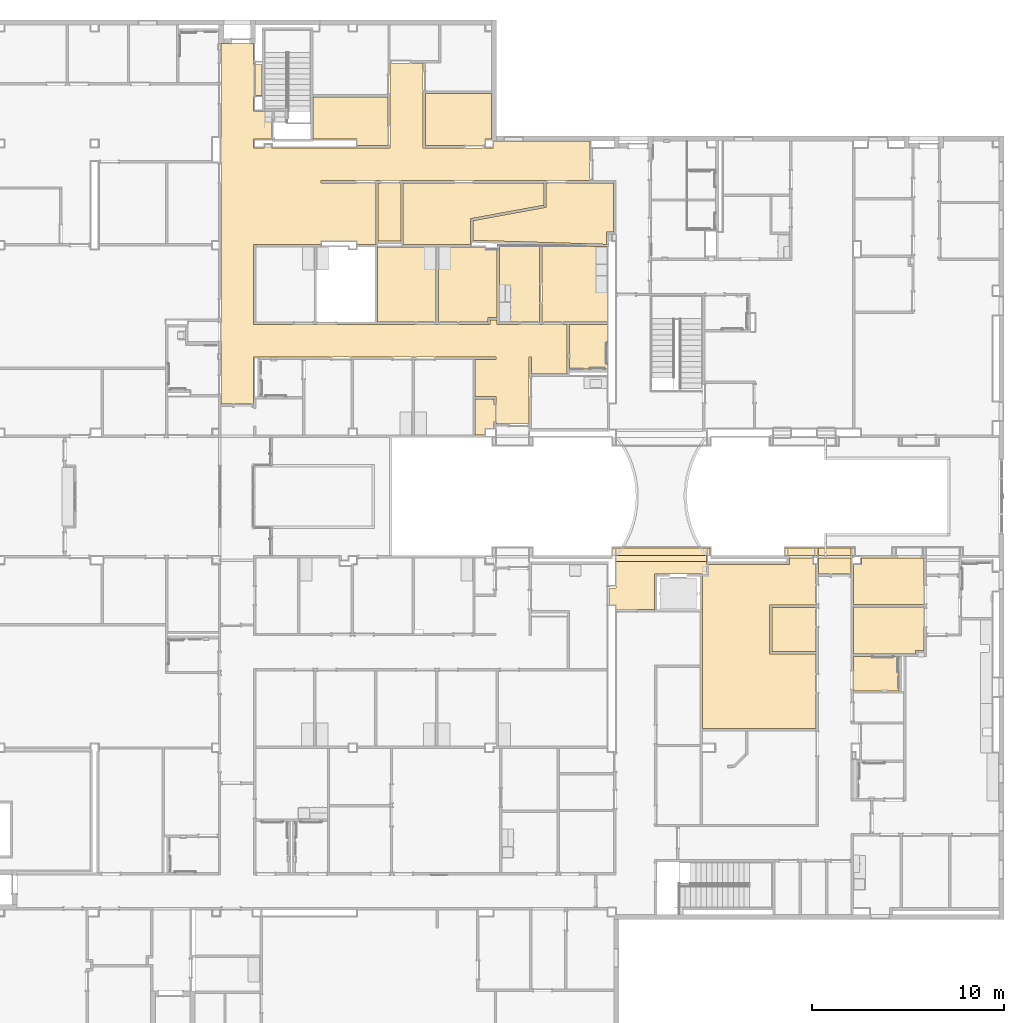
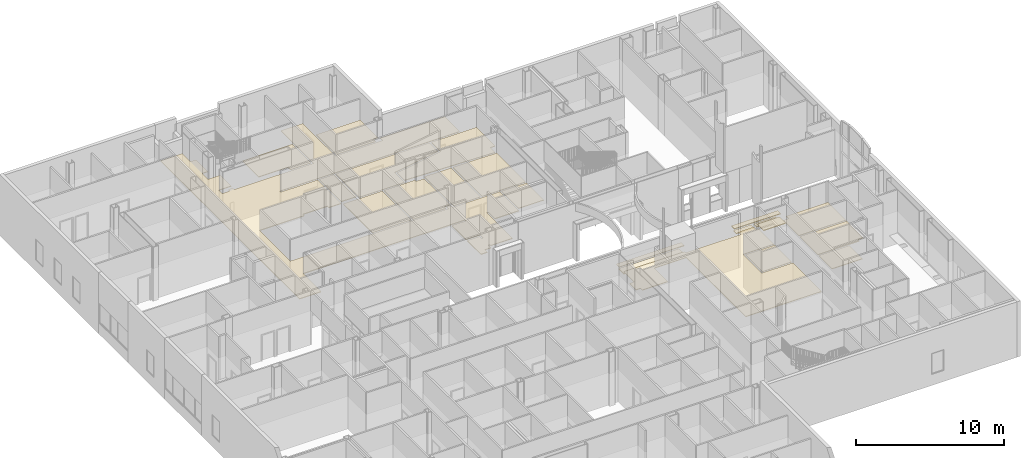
# One storey, part 52 of 82: 22 coverings.
"""IFC2X3 building model written with IfcOpenShell, lengths in metres."""

from ifc_helpers import new_model, entity, si_unit, converted_unit, origin, place, context, project, spatial, face_set, surface_model, material, layer, layer_set, layer_usage, element, save


model = new_model("IFC2X3")

# Units and contexts
model_context = context("Model", 3, precision=1e-09, world=origin())
plan_context = context("Plan", 3, precision=1e-09, world=origin())
ifc_project = project(units=[si_unit("LENGTHUNIT", "METRE"), si_unit("AREAUNIT", "SQUARE_METRE"), si_unit("VOLUMEUNIT", "CUBIC_METRE"), converted_unit("PLANEANGLEUNIT", "DEGREE", entity("IfcRatioMeasure", 0.01745329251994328), si_unit("PLANEANGLEUNIT", "RADIAN"), dimensions=[0, 0, 0, 0, 0, 0, 0]), si_unit("TIMEUNIT", "SECOND")], contexts=[model_context, plan_context])

# Site, building, storey
site_placement = place(None, origin())
site = spatial("IfcSite", under=ifc_project, at=site_placement, Name="Default", CompositionType="ELEMENT")
building_placement = place(site_placement, origin())
building = spatial("IfcBuilding", under=site, at=building_placement, CompositionType="ELEMENT")
storey_placement = place(building_placement, origin())
storey = spatial("IfcBuildingStorey", under=building, at=storey_placement, Name="First Floor", CompositionType="ELEMENT", Elevation=-3.531500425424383e-13)

# Coverings
ifc_material_1 = material(Name="Default")
ifc_layer_1 = layer(ifc_material_1, 0.03599999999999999)
ifc_material_2 = material(Name="Ceiling Tile 600 x 600")
ifc_layer_2 = layer(ifc_material_2, 0.016)
ifc_layer_set_1 = layer_set([ifc_layer_1, ifc_layer_2], Name="Compound Ceiling:ACT 600 x 600mm Grid")
ifc_layer_usage_1 = layer_usage(ifc_layer_set_1, "AXIS3", "NEGATIVE", 0.0)
covering_1_placement = place(storey_placement, origin())
element("IfcCovering", 1, at=covering_1_placement, inside=storey, material=ifc_layer_usage_1, Name="Compound Ceiling:ACT 600 x 600mm Grid", ObjectType="Compound Ceiling:ACT 600 x 600mm Grid", PredefinedType="CEILING", context=model_context, shape_type="SurfaceModel", body=[
    surface_model("IfcFaceBasedSurfaceModel", [(-29.76600000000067, 52.68999999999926, 2.732), (-26.32700000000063, 52.68999999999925, 2.732), (-26.32700000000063, 50.31999999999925, 2.732), (-26.67000000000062, 50.31999999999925, 2.732), (-26.67000000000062, 49.98399999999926, 2.732), (-29.76600000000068, 49.98399999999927, 2.732), (-29.76600000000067, 52.68999999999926, 2.68), (-26.32700000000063, 52.68999999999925, 2.68), (-26.32700000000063, 50.31999999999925, 2.68), (-26.67000000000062, 50.31999999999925, 2.68), (-26.67000000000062, 49.98399999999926, 2.68), (-29.76600000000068, 49.98399999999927, 2.68)], [face_set([[[0, 1, 2, 3, 4, 5]], [[6, 7, 8, 9, 10, 11]], [[5, 11, 6, 0]], [[4, 5, 11, 10]], [[3, 4, 10, 9]], [[2, 3, 9, 8]], [[1, 2, 8, 7]], [[0, 6, 7, 1]]])]),
])
covering_2_placement = place(storey_placement, origin())
element("IfcCovering", 2, at=covering_2_placement, inside=storey, material=ifc_layer_usage_1, Name="Compound Ceiling:ACT 600 x 600mm Grid", ObjectType="Compound Ceiling:ACT 600 x 600mm Grid", PredefinedType="CEILING", context=model_context, shape_type="SurfaceModel", body=[
    surface_model("IfcFaceBasedSurfaceModel", [(-20.17467857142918, 26.92079999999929, 2.732), (-19.8300000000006, 26.92079999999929, 2.732), (-19.8300000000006, 28.30350000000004, 2.732), (-15.10997500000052, 28.30350000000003, 2.732), (-15.10997500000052, 28.14999999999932, 2.732), (-10.79184886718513, 28.14999999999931, 2.732), (-10.79184886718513, 28.48599999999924, 2.732), (-9.576848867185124, 28.48599999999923, 2.732), (-9.576848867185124, 28.14999999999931, 2.732), (-9.413975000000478, 28.14999999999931, 2.732), (-9.413975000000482, 26.03999999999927, 2.732), (-11.82997500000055, 26.03999999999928, 2.732), (-11.82997500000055, 23.50000042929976, 2.732), (-9.413975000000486, 23.50000042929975, 2.732), (-9.413975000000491, 19.60999999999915, 2.732), (-15.3360000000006, 19.60999999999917, 2.732), (-15.33600000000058, 27.64589999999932, 2.732), (-17.82920000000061, 27.64589999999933, 2.732), (-17.82920000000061, 25.80739999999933, 2.732), (-19.83000000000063, 25.80739999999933, 2.732), (-19.83000000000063, 26.04599999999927, 2.732), (-20.17467857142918, 26.04599999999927, 2.732), (-20.17467857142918, 26.92079999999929, 2.68), (-20.17467857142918, 26.04599999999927, 2.68), (-19.83000000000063, 26.04599999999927, 2.68), (-19.83000000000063, 25.80739999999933, 2.68), (-17.82920000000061, 25.80739999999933, 2.68), (-17.82920000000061, 27.64589999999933, 2.68), (-15.33600000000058, 27.64589999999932, 2.68), (-15.3360000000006, 19.60999999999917, 2.68), (-9.413975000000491, 19.60999999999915, 2.68), (-9.413975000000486, 23.50000042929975, 2.68), (-11.82997500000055, 23.50000042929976, 2.68), (-11.82997500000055, 26.03999999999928, 2.68), (-9.413975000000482, 26.03999999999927, 2.68), (-9.413975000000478, 28.14999999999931, 2.68), (-9.576848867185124, 28.14999999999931, 2.68), (-9.576848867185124, 28.48599999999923, 2.68), (-10.79184886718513, 28.48599999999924, 2.68), (-10.79184886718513, 28.14999999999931, 2.68), (-15.10997500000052, 28.14999999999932, 2.68), (-15.10997500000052, 28.30350000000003, 2.68), (-19.8300000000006, 28.30350000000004, 2.68), (-19.8300000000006, 26.92079999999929, 2.68)], [face_set([[[0, 1, 2, 3, 4, 5, 6, 7, 8, 9, 10, 11, 12, 13, 14, 15, 16, 17, 18, 19, 20, 21]], [[22, 23, 24, 25, 26, 27, 28, 29, 30, 31, 32, 33, 34, 35, 36, 37, 38, 39, 40, 41, 42, 43]], [[21, 23, 22, 0]], [[20, 21, 23, 24]], [[19, 25, 24, 20]], [[18, 19, 25, 26]], [[17, 18, 26, 27]], [[16, 17, 27, 28]], [[15, 29, 28, 16]], [[14, 15, 29, 30]], [[13, 14, 30, 31]], [[12, 32, 31, 13]], [[11, 12, 32, 33]], [[10, 11, 33, 34]], [[9, 10, 34, 35]], [[8, 36, 35, 9]], [[7, 8, 36, 37]], [[6, 38, 37, 7]], [[5, 39, 38, 6]], [[4, 40, 39, 5]], [[3, 4, 40, 41]], [[2, 42, 41, 3]], [[1, 43, 42, 2]], [[0, 22, 43, 1]]])]),
])
covering_3_placement = place(storey_placement, origin())
element("IfcCovering", 3, at=covering_3_placement, inside=storey, material=ifc_layer_usage_1, Name="Compound Ceiling:ACT 600 x 600mm Grid", ObjectType="Compound Ceiling:ACT 600 x 600mm Grid", PredefinedType="CEILING", context=model_context, shape_type="SurfaceModel", body=[
    surface_model("IfcFaceBasedSurfaceModel", [(-20.29000000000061, 38.3299999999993, 2.732), (-22.25600000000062, 38.32999999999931, 2.732), (-22.25600000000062, 40.65999999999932, 2.732), (-20.29000000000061, 40.65999999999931, 2.732), (-20.29000000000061, 38.3299999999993, 2.68), (-22.25600000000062, 38.32999999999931, 2.68), (-22.25600000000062, 40.65999999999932, 2.68), (-20.29000000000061, 40.65999999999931, 2.68)], [face_set([[[0, 1, 2, 3]], [[4, 5, 6, 7]], [[3, 0, 4, 7]], [[2, 6, 7, 3]], [[1, 5, 6, 2]], [[0, 1, 5, 4]]])]),
])
covering_4_placement = place(storey_placement, origin())
element("IfcCovering", 4, at=covering_4_placement, inside=storey, material=ifc_layer_usage_1, Name="Compound Ceiling:ACT 600 x 600mm Grid", ObjectType="Compound Ceiling:ACT 600 x 600mm Grid", PredefinedType="CEILING", context=model_context, shape_type="SurfaceModel", body=[
    surface_model("IfcFaceBasedSurfaceModel", [(-19.9540000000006, 48.02599999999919, 2.732), (-19.95400000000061, 45.48399999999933, 2.732), (-20.32900000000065, 45.48399999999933, 2.732), (-20.32900000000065, 44.83118581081, 2.732), (-27.28500000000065, 45.04268581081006, 2.732), (-27.28500000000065, 46.06502903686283, 2.732), (-23.47500000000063, 46.76502903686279, 2.732), (-23.47500000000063, 48.02599999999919, 2.732), (-19.9540000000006, 48.02599999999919, 2.68), (-19.95400000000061, 45.48399999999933, 2.68), (-20.32900000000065, 45.48399999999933, 2.68), (-20.32900000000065, 44.83118581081, 2.68), (-27.28500000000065, 45.04268581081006, 2.68), (-27.28500000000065, 46.06502903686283, 2.68), (-23.47500000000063, 46.76502903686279, 2.68), (-23.47500000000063, 48.02599999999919, 2.68)], [face_set([[[0, 1, 2, 3, 4, 5, 6, 7]], [[8, 9, 10, 11, 12, 13, 14, 15]], [[7, 15, 8, 0]], [[6, 14, 15, 7]], [[5, 13, 14, 6]], [[4, 12, 13, 5]], [[3, 4, 12, 11]], [[2, 3, 11, 10]], [[1, 2, 10, 9]], [[0, 1, 9, 8]]])]),
])
ifc_material_3 = material(Name="Metal - Stud Layer")
ifc_layer_3 = layer(ifc_material_3, 0.045)
ifc_material_4 = material(Name="Plasterboard")
ifc_layer_4 = layer(ifc_material_4, 0.012)
ifc_layer_set_2 = layer_set([ifc_layer_3, ifc_layer_4], Name="Compound Ceiling:Gypsum Board")
ifc_layer_usage_2 = layer_usage(ifc_layer_set_2, "AXIS3", "NEGATIVE", 0.0)
covering_5_placement = place(storey_placement, origin())
element("IfcCovering", 5, at=covering_5_placement, inside=storey, material=ifc_layer_usage_2, Name="Compound Ceiling:Gypsum Board", ObjectType="Compound Ceiling:Gypsum Board", PredefinedType="CEILING", context=model_context, shape_type="SurfaceModel", body=[
    surface_model("IfcFaceBasedSurfaceModel", [(-10.8637227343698, 28.60999999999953, 2.557), (-10.86372273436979, 29.01599999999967, 2.557), (-9.504975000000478, 29.01599999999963, 2.557), (-9.504975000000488, 28.6099999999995, 2.557), (-10.8637227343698, 28.60999999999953, 2.5), (-10.86372273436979, 29.01599999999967, 2.5), (-9.504975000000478, 29.01599999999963, 2.5), (-9.504975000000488, 28.6099999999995, 2.5)], [face_set([[[0, 1, 2, 3]], [[4, 5, 6, 7]], [[0, 4, 5, 1]], [[1, 5, 6, 2]], [[2, 3, 7, 6]], [[3, 0, 4, 7]]])]),
])
covering_6_placement = place(storey_placement, origin())
element("IfcCovering", 6, at=covering_6_placement, inside=storey, material=ifc_layer_usage_1, Name="Compound Ceiling:ACT 600 x 600mm Grid", ObjectType="Compound Ceiling:ACT 600 x 600mm Grid", PredefinedType="CEILING", context=model_context, shape_type="SurfaceModel", body=[
    surface_model("IfcFaceBasedSurfaceModel", [(-33.32000000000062, 50.31999999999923, 2.732), (-35.61600000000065, 50.31999999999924, 2.732), (-35.61600000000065, 52.51999999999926, 2.732), (-31.72400000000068, 52.51999999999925, 2.732), (-31.72400000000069, 49.98399999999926, 2.732), (-33.32000000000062, 49.98399999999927, 2.732), (-33.32000000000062, 50.31999999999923, 2.68), (-35.61600000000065, 50.31999999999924, 2.68), (-35.61600000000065, 52.51999999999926, 2.68), (-31.72400000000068, 52.51999999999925, 2.68), (-31.72400000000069, 49.98399999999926, 2.68), (-33.32000000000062, 49.98399999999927, 2.68)], [face_set([[[0, 1, 2, 3, 4, 5]], [[6, 7, 8, 9, 10, 11]], [[4, 5, 11, 10]], [[3, 4, 10, 9]], [[2, 8, 9, 3]], [[1, 7, 8, 2]], [[0, 1, 7, 6]], [[5, 11, 6, 0]]])]),
])
covering_7_placement = place(storey_placement, origin())
element("IfcCovering", 7, at=covering_7_placement, inside=storey, material=ifc_layer_usage_1, Name="Compound Ceiling:ACT 600 x 600mm Grid", ObjectType="Compound Ceiling:ACT 600 x 600mm Grid", PredefinedType="CEILING", context=model_context, shape_type="SurfaceModel", body=[
    surface_model("IfcFaceBasedSurfaceModel", [(-3.793975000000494, 28.48599999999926, 2.732), (-3.793975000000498, 26.06399999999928, 2.732), (-7.455975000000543, 26.06399999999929, 2.732), (-7.455975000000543, 28.14999999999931, 2.732), (-7.050000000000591, 28.14999999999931, 2.732), (-7.050000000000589, 28.48599999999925, 2.732), (-5.305722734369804, 28.48599999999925, 2.732), (-5.171852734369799, 28.48599999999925, 2.732), (-3.956852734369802, 28.48599999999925, 2.732), (-3.793975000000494, 28.48599999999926, 2.68), (-3.793975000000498, 26.06399999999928, 2.68), (-7.455975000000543, 26.06399999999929, 2.68), (-7.455975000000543, 28.14999999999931, 2.68), (-7.050000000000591, 28.14999999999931, 2.68), (-7.050000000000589, 28.48599999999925, 2.68), (-5.305722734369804, 28.48599999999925, 2.68), (-5.171852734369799, 28.48599999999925, 2.68), (-3.956852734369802, 28.48599999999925, 2.68)], [face_set([[[0, 1, 2, 3, 4, 5, 6, 7, 8]], [[9, 10, 11, 12, 13, 14, 15, 16, 17]], [[8, 17, 9, 0]], [[7, 16, 17, 8]], [[6, 15, 16, 7]], [[5, 14, 15, 6]], [[4, 13, 14, 5]], [[3, 12, 13, 4]], [[2, 11, 12, 3]], [[1, 2, 11, 10]], [[0, 1, 10, 9]]])]),
])
covering_8_placement = place(storey_placement, origin())
element("IfcCovering", 8, at=covering_8_placement, inside=storey, material=ifc_layer_usage_1, Name="Compound Ceiling:ACT 600 x 600mm Grid", ObjectType="Compound Ceiling:ACT 600 x 600mm Grid", PredefinedType="CEILING", context=model_context, shape_type="SurfaceModel", body=[
    surface_model("IfcFaceBasedSurfaceModel", [(-27.40900000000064, 44.82999999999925, 2.732), (-27.40900000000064, 46.16832236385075, 2.732), (-23.59900000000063, 46.86832236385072, 2.732), (-23.59900000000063, 48.02599999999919, 2.732), (-30.92500000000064, 48.02599999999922, 2.732), (-30.92500000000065, 44.82999999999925, 2.732), (-27.40900000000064, 44.82999999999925, 2.68), (-30.92500000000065, 44.82999999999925, 2.68), (-30.92500000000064, 48.02599999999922, 2.68), (-23.59900000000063, 48.02599999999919, 2.68), (-23.59900000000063, 46.86832236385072, 2.68), (-27.40900000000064, 46.16832236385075, 2.68)], [face_set([[[0, 1, 2, 3, 4, 5]], [[6, 7, 8, 9, 10, 11]], [[1, 0, 6, 11]], [[2, 1, 11, 10]], [[3, 2, 10, 9]], [[4, 8, 9, 3]], [[5, 7, 8, 4]], [[0, 5, 7, 6]]])]),
])
covering_9_placement = place(storey_placement, origin())
element("IfcCovering", 9, at=covering_9_placement, inside=storey, material=ifc_layer_usage_1, Name="Compound Ceiling:ACT 600 x 600mm Grid", ObjectType="Compound Ceiling:ACT 600 x 600mm Grid", PredefinedType="CEILING", context=model_context, shape_type="SurfaceModel", body=[
    surface_model("IfcFaceBasedSurfaceModel", [(-9.413975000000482, 25.91599999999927, 2.732), (-9.413975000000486, 23.62400042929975, 2.732), (-11.70597500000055, 23.62400042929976, 2.732), (-11.70597500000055, 25.91599999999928, 2.732), (-9.413975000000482, 25.91599999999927, 2.68), (-9.413975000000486, 23.62400042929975, 2.68), (-11.70597500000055, 23.62400042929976, 2.68), (-11.70597500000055, 25.91599999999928, 2.68)], [face_set([[[0, 1, 2, 3]], [[4, 5, 6, 7]], [[3, 7, 4, 0]], [[2, 6, 7, 3]], [[1, 2, 6, 5]], [[0, 1, 5, 4]]])]),
])
covering_10_placement = place(storey_placement, origin())
element("IfcCovering", 10, at=covering_10_placement, inside=storey, material=ifc_layer_usage_2, Name="Compound Ceiling:Gypsum Board", ObjectType="Compound Ceiling:Gypsum Board", PredefinedType="CEILING", context=model_context, shape_type="SurfaceModel", body=[
    surface_model("IfcFaceBasedSurfaceModel", [(-15.1099750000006, 29.01599999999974, 2.557), (-15.10997500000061, 28.30799999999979, 2.557), (-19.83000000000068, 28.30799999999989, 2.557), (-19.83000000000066, 29.01599999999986, 2.557), (-15.1099750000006, 29.01599999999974, 2.5), (-15.10997500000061, 28.30799999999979, 2.5), (-19.83000000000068, 28.30799999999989, 2.5), (-19.83000000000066, 29.01599999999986, 2.5)], [face_set([[[0, 1, 2, 3]], [[4, 5, 6, 7]], [[0, 1, 5, 4]], [[1, 2, 6, 5]], [[2, 6, 7, 3]], [[3, 7, 4, 0]]])]),
])
covering_11_placement = place(storey_placement, origin())
element("IfcCovering", 11, at=covering_11_placement, inside=storey, material=ifc_layer_usage_1, Name="Compound Ceiling:ACT 600 x 600mm Grid", ObjectType="Compound Ceiling:ACT 600 x 600mm Grid", PredefinedType="CEILING", context=model_context, shape_type="SurfaceModel", body=[
    surface_model("IfcFaceBasedSurfaceModel", [(-32.22500000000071, 45.00999999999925, 2.732), (-32.2250000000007, 48.02599999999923, 2.732), (-31.04900000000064, 48.02599999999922, 2.732), (-31.04900000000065, 45.00999999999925, 2.732), (-32.22500000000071, 45.00999999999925, 2.68), (-32.2250000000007, 48.02599999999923, 2.68), (-31.04900000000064, 48.02599999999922, 2.68), (-31.04900000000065, 45.00999999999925, 2.68)], [face_set([[[0, 1, 2, 3]], [[4, 5, 6, 7]], [[3, 0, 4, 7]], [[2, 3, 7, 6]], [[1, 5, 6, 2]], [[0, 4, 5, 1]]])]),
])
covering_12_placement = place(storey_placement, origin())
element("IfcCovering", 12, at=covering_12_placement, inside=storey, material=ifc_layer_usage_2, Name="Compound Ceiling:Gypsum Board", ObjectType="Compound Ceiling:Gypsum Board", PredefinedType="CEILING", context=model_context, shape_type="SurfaceModel", body=[
    surface_model("IfcFaceBasedSurfaceModel", [(-9.289975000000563, 28.60999999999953, 2.557), (-9.289975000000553, 29.01599999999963, 2.557), (-7.579975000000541, 29.01599999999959, 2.557), (-7.579975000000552, 28.6099999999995, 2.557), (-9.289975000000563, 28.60999999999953, 2.5), (-9.289975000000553, 29.01599999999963, 2.5), (-7.579975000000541, 29.01599999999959, 2.5), (-7.579975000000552, 28.6099999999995, 2.5)], [face_set([[[0, 1, 2, 3]], [[4, 5, 6, 7]], [[0, 4, 5, 1]], [[1, 5, 6, 2]], [[2, 3, 7, 6]], [[3, 0, 4, 7]]])]),
])
covering_13_placement = place(storey_placement, origin())
element("IfcCovering", 13, at=covering_13_placement, inside=storey, material=ifc_layer_usage_2, Name="Compound Ceiling:Gypsum Board", ObjectType="Compound Ceiling:Gypsum Board", PredefinedType="CEILING", context=model_context, shape_type="SurfaceModel", body=[
    surface_model("IfcFaceBasedSurfaceModel", [(-9.289975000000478, 28.48599999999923, 2.857), (-7.579975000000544, 28.48599999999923, 2.857), (-7.579975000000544, 27.64399999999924, 2.857), (-9.289975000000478, 27.64399999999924, 2.857), (-9.289975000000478, 28.48599999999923, 2.8), (-7.579975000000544, 28.48599999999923, 2.8), (-7.579975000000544, 27.64399999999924, 2.8), (-9.289975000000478, 27.64399999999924, 2.8)], [face_set([[[0, 1, 2, 3]], [[4, 5, 6, 7]], [[3, 7, 4, 0]], [[2, 3, 7, 6]], [[1, 2, 6, 5]], [[0, 4, 5, 1]]])]),
])
covering_14_placement = place(storey_placement, origin())
element("IfcCovering", 14, at=covering_14_placement, inside=storey, material=ifc_layer_usage_1, Name="Compound Ceiling:ACT 600 x 600mm Grid", ObjectType="Compound Ceiling:ACT 600 x 600mm Grid", PredefinedType="CEILING", context=model_context, shape_type="SurfaceModel", body=[
    surface_model("IfcFaceBasedSurfaceModel", [(-26.21000000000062, 50.20299999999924, 2.732), (-26.21000000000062, 49.85999999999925, 2.732), (-29.89000000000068, 49.85999999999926, 2.732), (-29.89000000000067, 54.28659999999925, 2.732), (-31.60000000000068, 54.28659999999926, 2.732), (-31.60000000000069, 49.85999999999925, 2.732), (-37.7925737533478, 49.85999999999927, 2.732), (-37.7925737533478, 50.05500062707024, 2.732), (-38.14400000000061, 50.05500062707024, 2.732), (-38.14400000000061, 49.85999999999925, 2.732), (-38.72000000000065, 49.85999999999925, 2.732), (-38.72000000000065, 50.31999999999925, 2.732), (-37.75500000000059, 50.31999999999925, 2.732), (-37.75500000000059, 51.78999999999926, 2.732), (-38.72000000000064, 51.78999999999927, 2.732), (-38.72000000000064, 52.5834256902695, 2.732), (-38.28400014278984, 52.5834256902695, 2.732), (-38.28400014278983, 54.19653515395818, 2.732), (-38.72000000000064, 54.19653515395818, 2.732), (-38.72000000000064, 55.28799999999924, 2.732), (-40.41300000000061, 55.28799999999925, 2.732), (-40.41300000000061, 53.20199999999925, 2.732), (-40.41300000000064, 36.50149999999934, 2.732), (-38.72000000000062, 36.50149999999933, 2.732), (-38.72000000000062, 38.94999999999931, 2.732), (-26.08000000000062, 38.94999999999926, 2.732), (-26.08000000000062, 38.82599999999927, 2.732), (-27.17000000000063, 38.82599999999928, 2.732), (-27.17000000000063, 36.90999999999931, 2.732), (-26.08000000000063, 36.9099999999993, 2.732), (-26.08000000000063, 36.49499999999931, 2.732), (-26.20400000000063, 36.49499999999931, 2.732), (-26.20400000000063, 36.78599999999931, 2.732), (-27.17000000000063, 36.78599999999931, 2.732), (-27.17000000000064, 34.9035481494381, 2.732), (-26.67000000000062, 34.9035481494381, 2.732), (-26.67000000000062, 35.23999999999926, 2.732), (-26.20400000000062, 35.23999999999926, 2.732), (-26.20400000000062, 35.57999999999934, 2.732), (-26.08000000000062, 35.57999999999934, 2.732), (-26.08000000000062, 35.47999999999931, 2.732), (-24.37000000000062, 35.4799999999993, 2.732), (-24.37000000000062, 38.94999999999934, 2.732), (-24.24600000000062, 38.94999999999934, 2.732), (-24.24600000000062, 38.07399999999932, 2.732), (-22.38000000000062, 38.07399999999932, 2.732), (-22.38000000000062, 40.65999999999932, 2.732), (-26.04000000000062, 40.65999999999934, 2.732), (-26.04000000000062, 40.88499955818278, 2.732), (-26.39000084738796, 40.88499955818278, 2.732), (-26.39000084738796, 40.65999999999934, 2.732), (-38.72000000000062, 40.65999999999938, 2.732), (-38.72000000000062, 44.82999999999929, 2.732), (-35.21500000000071, 44.82999999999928, 2.732), (-35.21500000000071, 45.00999999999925, 2.732), (-33.32000000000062, 45.00999999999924, 2.732), (-33.32000000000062, 44.82999999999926, 2.732), (-32.3490000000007, 44.82999999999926, 2.732), (-32.3490000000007, 48.02599999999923, 2.732), (-35.21500000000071, 48.02599999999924, 2.732), (-35.21500000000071, 48.14999999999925, 2.732), (-21.18000000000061, 48.1499999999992, 2.732), (-21.1800000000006, 50.20299999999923, 2.732), (-26.21000000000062, 50.20299999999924, 2.68), (-21.1800000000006, 50.20299999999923, 2.68), (-21.18000000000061, 48.1499999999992, 2.68), (-35.21500000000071, 48.14999999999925, 2.68), (-35.21500000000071, 48.02599999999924, 2.68), (-32.3490000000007, 48.02599999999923, 2.68), (-32.3490000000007, 44.82999999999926, 2.68), (-33.32000000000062, 44.82999999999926, 2.68), (-33.32000000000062, 45.00999999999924, 2.68), (-35.21500000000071, 45.00999999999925, 2.68), (-35.21500000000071, 44.82999999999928, 2.68), (-38.72000000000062, 44.82999999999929, 2.68), (-38.72000000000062, 40.65999999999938, 2.68), (-26.39000084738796, 40.65999999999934, 2.68), (-26.39000084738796, 40.88499955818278, 2.68), (-26.04000000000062, 40.88499955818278, 2.68), (-26.04000000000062, 40.65999999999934, 2.68), (-22.38000000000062, 40.65999999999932, 2.68), (-22.38000000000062, 38.07399999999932, 2.68), (-24.24600000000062, 38.07399999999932, 2.68), (-24.24600000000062, 38.94999999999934, 2.68), (-24.37000000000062, 38.94999999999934, 2.68), (-24.37000000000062, 35.4799999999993, 2.68), (-26.08000000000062, 35.47999999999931, 2.68), (-26.08000000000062, 35.57999999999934, 2.68), (-26.20400000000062, 35.57999999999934, 2.68), (-26.20400000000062, 35.23999999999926, 2.68), (-26.67000000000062, 35.23999999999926, 2.68), (-26.67000000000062, 34.9035481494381, 2.68), (-27.17000000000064, 34.9035481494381, 2.68), (-27.17000000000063, 36.78599999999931, 2.68), (-26.20400000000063, 36.78599999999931, 2.68), (-26.20400000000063, 36.49499999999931, 2.68), (-26.08000000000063, 36.49499999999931, 2.68), (-26.08000000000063, 36.9099999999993, 2.68), (-27.17000000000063, 36.90999999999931, 2.68), (-27.17000000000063, 38.82599999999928, 2.68), (-26.08000000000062, 38.82599999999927, 2.68), (-26.08000000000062, 38.94999999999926, 2.68), (-38.72000000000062, 38.94999999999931, 2.68), (-38.72000000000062, 36.50149999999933, 2.68), (-40.41300000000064, 36.50149999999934, 2.68), (-40.41300000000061, 53.20199999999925, 2.68), (-40.41300000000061, 55.28799999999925, 2.68), (-38.72000000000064, 55.28799999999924, 2.68), (-38.72000000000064, 54.19653515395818, 2.68), (-38.28400014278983, 54.19653515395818, 2.68), (-38.28400014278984, 52.5834256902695, 2.68), (-38.72000000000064, 52.5834256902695, 2.68), (-38.72000000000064, 51.78999999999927, 2.68), (-37.75500000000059, 51.78999999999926, 2.68), (-37.75500000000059, 50.31999999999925, 2.68), (-38.72000000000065, 50.31999999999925, 2.68), (-38.72000000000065, 49.85999999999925, 2.68), (-38.14400000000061, 49.85999999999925, 2.68), (-38.14400000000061, 50.05500062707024, 2.68), (-37.7925737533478, 50.05500062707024, 2.68), (-37.7925737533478, 49.85999999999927, 2.68), (-31.60000000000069, 49.85999999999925, 2.68), (-31.60000000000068, 54.28659999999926, 2.68), (-29.89000000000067, 54.28659999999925, 2.68), (-29.89000000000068, 49.85999999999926, 2.68), (-26.21000000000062, 49.85999999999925, 2.68)], [face_set([[[0, 1, 2, 3, 4, 5, 6, 7, 8, 9, 10, 11, 12, 13, 14, 15, 16, 17, 18, 19, 20, 21, 22, 23, 24, 25, 26, 27, 28, 29, 30, 31, 32, 33, 34, 35, 36, 37, 38, 39, 40, 41, 42, 43, 44, 45, 46, 47, 48, 49, 50, 51, 52, 53, 54, 55, 56, 57, 58, 59, 60, 61, 62]], [[63, 64, 65, 66, 67, 68, 69, 70, 71, 72, 73, 74, 75, 76, 77, 78, 79, 80, 81, 82, 83, 84, 85, 86, 87, 88, 89, 90, 91, 92, 93, 94, 95, 96, 97, 98, 99, 100, 101, 102, 103, 104, 105, 106, 107, 108, 109, 110, 111, 112, 113, 114, 115, 116, 117, 118, 119, 120, 121, 122, 123, 124, 125]], [[2, 124, 125, 1]], [[3, 2, 124, 123]], [[4, 122, 123, 3]], [[5, 121, 122, 4]], [[6, 120, 121, 5]], [[7, 6, 120, 119]], [[8, 118, 119, 7]], [[9, 117, 118, 8]], [[10, 116, 117, 9]], [[11, 10, 116, 115]], [[12, 11, 115, 114]], [[13, 12, 114, 113]], [[14, 112, 113, 13]], [[15, 14, 112, 111]], [[16, 15, 111, 110]], [[17, 16, 110, 109]], [[18, 108, 109, 17]], [[19, 18, 108, 107]], [[20, 106, 107, 19]], [[21, 105, 106, 20]], [[22, 104, 105, 21]], [[23, 22, 104, 103]], [[24, 23, 103, 102]], [[25, 24, 102, 101]], [[26, 100, 101, 25]], [[27, 99, 100, 26]], [[28, 98, 99, 27]], [[29, 28, 98, 97]], [[30, 96, 97, 29]], [[31, 95, 96, 30]], [[32, 31, 95, 94]], [[33, 93, 94, 32]], [[34, 92, 93, 33]], [[35, 34, 92, 91]], [[36, 35, 91, 90]], [[37, 36, 90, 89]], [[38, 37, 89, 88]], [[39, 38, 88, 87]], [[40, 86, 87, 39]], [[41, 40, 86, 85]], [[42, 41, 85, 84]], [[43, 42, 84, 83]], [[44, 82, 83, 43]], [[45, 44, 82, 81]], [[46, 45, 81, 80]], [[47, 79, 80, 46]], [[48, 47, 79, 78]], [[49, 77, 78, 48]], [[50, 76, 77, 49]], [[51, 75, 76, 50]], [[52, 51, 75, 74]], [[53, 52, 74, 73]], [[54, 53, 73, 72]], [[55, 54, 72, 71]], [[56, 70, 71, 55]], [[57, 56, 70, 69]], [[58, 57, 69, 68]], [[59, 67, 68, 58]], [[60, 59, 67, 66]], [[61, 60, 66, 65]], [[62, 61, 65, 64]], [[0, 63, 64, 62]], [[1, 125, 63, 0]]])]),
])
covering_15_placement = place(storey_placement, origin())
element("IfcCovering", 15, at=covering_15_placement, inside=storey, material=ifc_layer_usage_1, Name="Compound Ceiling:ACT 600 x 600mm Grid", ObjectType="Compound Ceiling:ACT 600 x 600mm Grid", PredefinedType="CEILING", context=model_context, shape_type="SurfaceModel", body=[
    surface_model("IfcFaceBasedSurfaceModel", [(-29.08600000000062, 44.70599999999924, 2.732), (-26.67000000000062, 44.70599999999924, 2.732), (-26.67000000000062, 44.54999999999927, 2.732), (-26.04000000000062, 44.54999999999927, 2.732), (-26.04000000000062, 41.00899955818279, 2.732), (-26.51400084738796, 41.00899955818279, 2.732), (-26.51400084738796, 40.78399999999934, 2.732), (-29.08600000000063, 40.78399999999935, 2.732), (-29.08600000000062, 44.70599999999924, 2.68), (-26.67000000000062, 44.70599999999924, 2.68), (-26.67000000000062, 44.54999999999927, 2.68), (-26.04000000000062, 44.54999999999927, 2.68), (-26.04000000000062, 41.00899955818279, 2.68), (-26.51400084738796, 41.00899955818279, 2.68), (-26.51400084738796, 40.78399999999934, 2.68), (-29.08600000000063, 40.78399999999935, 2.68)], [face_set([[[0, 1, 2, 3, 4, 5, 6, 7]], [[8, 9, 10, 11, 12, 13, 14, 15]], [[7, 15, 8, 0]], [[6, 7, 15, 14]], [[5, 6, 14, 13]], [[4, 5, 13, 12]], [[3, 4, 12, 11]], [[2, 10, 11, 3]], [[1, 2, 10, 9]], [[0, 8, 9, 1]]])]),
])
covering_16_placement = place(storey_placement, origin())
element("IfcCovering", 16, at=covering_16_placement, inside=storey, material=ifc_layer_usage_1, Name="Compound Ceiling:ACT 600 x 600mm Grid", ObjectType="Compound Ceiling:ACT 600 x 600mm Grid", PredefinedType="CEILING", context=model_context, shape_type="SurfaceModel", body=[
    surface_model("IfcFaceBasedSurfaceModel", [(-23.81400000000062, 40.78399999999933, 2.732), (-25.91600000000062, 40.78399999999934, 2.732), (-25.91600000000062, 44.73999999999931, 2.732), (-23.81400000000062, 44.73999999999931, 2.732), (-23.81400000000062, 40.78399999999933, 2.68), (-25.91600000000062, 40.78399999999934, 2.68), (-25.91600000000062, 44.73999999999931, 2.68), (-23.81400000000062, 44.73999999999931, 2.68)], [face_set([[[0, 1, 2, 3]], [[4, 5, 6, 7]], [[3, 0, 4, 7]], [[2, 6, 7, 3]], [[1, 5, 6, 2]], [[0, 1, 5, 4]]])]),
])
covering_17_placement = place(storey_placement, origin())
element("IfcCovering", 17, at=covering_17_placement, inside=storey, material=ifc_layer_usage_1, Name="Compound Ceiling:ACT 600 x 600mm Grid", ObjectType="Compound Ceiling:ACT 600 x 600mm Grid", PredefinedType="CEILING", context=model_context, shape_type="SurfaceModel", body=[
    surface_model("IfcFaceBasedSurfaceModel", [(-32.25600000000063, 40.78399999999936, 2.732), (-32.25600000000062, 44.70599999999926, 2.732), (-29.21000000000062, 44.70599999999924, 2.732), (-29.21000000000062, 40.78399999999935, 2.732), (-32.25600000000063, 40.78399999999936, 2.68), (-32.25600000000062, 44.70599999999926, 2.68), (-29.21000000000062, 44.70599999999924, 2.68), (-29.21000000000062, 40.78399999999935, 2.68)], [face_set([[[0, 1, 2, 3]], [[4, 5, 6, 7]], [[3, 0, 4, 7]], [[2, 3, 7, 6]], [[1, 5, 6, 2]], [[0, 4, 5, 1]]])]),
])
covering_18_placement = place(storey_placement, origin())
element("IfcCovering", 18, at=covering_18_placement, inside=storey, material=ifc_layer_usage_1, Name="Compound Ceiling:ACT 600 x 600mm Grid", ObjectType="Compound Ceiling:ACT 600 x 600mm Grid", PredefinedType="CEILING", context=model_context, shape_type="SurfaceModel", body=[
    surface_model("IfcFaceBasedSurfaceModel", [(-7.455975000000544, 23.35999999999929, 2.732), (-5.099975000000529, 23.35999999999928, 2.732), (-5.099975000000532, 21.56999999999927, 2.732), (-7.455975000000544, 21.56999999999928, 2.732), (-7.455975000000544, 23.35999999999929, 2.68), (-5.099975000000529, 23.35999999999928, 2.68), (-5.099975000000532, 21.56999999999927, 2.68), (-7.455975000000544, 21.56999999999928, 2.68)], [face_set([[[0, 1, 2, 3]], [[4, 5, 6, 7]], [[3, 7, 4, 0]], [[2, 3, 7, 6]], [[1, 2, 6, 5]], [[0, 4, 5, 1]]])]),
])
covering_19_placement = place(storey_placement, origin())
element("IfcCovering", 19, at=covering_19_placement, inside=storey, material=ifc_layer_usage_2, Name="Compound Ceiling:Gypsum Board", ObjectType="Compound Ceiling:Gypsum Board", PredefinedType="CEILING", context=model_context, shape_type="SurfaceModel", body=[
    surface_model("IfcFaceBasedSurfaceModel", [(-11.0247227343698, 28.60999999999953, 3.0), (-11.02472273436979, 29.01599999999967, 3.0), (-7.418975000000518, 29.01599999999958, 3.0), (-7.418975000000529, 28.60999999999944, 3.0), (-11.0247227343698, 28.60999999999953, 2.943), (-11.02472273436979, 29.01599999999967, 2.943), (-7.418975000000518, 29.01599999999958, 2.943), (-7.418975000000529, 28.60999999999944, 2.943)], [face_set([[[0, 1, 2, 3]], [[4, 5, 6, 7]], [[0, 4, 5, 1]], [[1, 5, 6, 2]], [[2, 3, 7, 6]], [[3, 0, 4, 7]]])]),
])
covering_20_placement = place(storey_placement, origin())
element("IfcCovering", 20, at=covering_20_placement, inside=storey, material=ifc_layer_usage_1, Name="Compound Ceiling:ACT 600 x 600mm Grid", ObjectType="Compound Ceiling:ACT 600 x 600mm Grid", PredefinedType="CEILING", context=model_context, shape_type="SurfaceModel", body=[
    surface_model("IfcFaceBasedSurfaceModel", [(-20.2900000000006, 44.70594269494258, 2.732), (-20.29000000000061, 40.78399999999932, 2.732), (-23.69000000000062, 40.78399999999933, 2.732), (-23.69000000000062, 44.73999999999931, 2.732), (-21.41010692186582, 44.7399999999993, 2.732), (-20.2900000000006, 44.70594269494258, 2.68), (-20.29000000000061, 40.78399999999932, 2.68), (-23.69000000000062, 40.78399999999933, 2.68), (-23.69000000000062, 44.73999999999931, 2.68), (-21.41010692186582, 44.7399999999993, 2.68)], [face_set([[[0, 1, 2, 3, 4]], [[5, 6, 7, 8, 9]], [[4, 9, 5, 0]], [[3, 8, 9, 4]], [[2, 7, 8, 3]], [[1, 2, 7, 6]], [[0, 1, 6, 5]]])]),
])
covering_21_placement = place(storey_placement, origin())
element("IfcCovering", 21, at=covering_21_placement, inside=storey, material=ifc_layer_usage_2, Name="Compound Ceiling:Gypsum Board", ObjectType="Compound Ceiling:Gypsum Board", PredefinedType="CEILING", context=model_context, shape_type="SurfaceModel", body=[
    surface_model("IfcFaceBasedSurfaceModel", [(-14.92900000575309, 29.01599999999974, 3.0), (-14.9290000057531, 28.60999999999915, 3.0), (-20.00600000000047, 28.60999999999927, 3.0), (-20.00600000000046, 29.01599999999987, 3.0), (-14.92900000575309, 29.01599999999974, 2.943), (-14.9290000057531, 28.60999999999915, 2.943), (-20.00600000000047, 28.60999999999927, 2.943), (-20.00600000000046, 29.01599999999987, 2.943)], [face_set([[[0, 1, 2, 3]], [[4, 5, 6, 7]], [[0, 1, 5, 4]], [[1, 2, 6, 5]], [[2, 6, 7, 3]], [[3, 7, 4, 0]]])]),
])
covering_22_placement = place(storey_placement, origin())
element("IfcCovering", 22, at=covering_22_placement, inside=storey, material=ifc_layer_usage_1, Name="Compound Ceiling:ACT 600 x 600mm Grid", ObjectType="Compound Ceiling:ACT 600 x 600mm Grid", PredefinedType="CEILING", context=model_context, shape_type="SurfaceModel", body=[
    surface_model("IfcFaceBasedSurfaceModel", [(-7.455975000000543, 25.93999999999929, 2.732), (-3.793975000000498, 25.93999999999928, 2.732), (-3.793975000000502, 23.68149999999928, 2.732), (-4.233975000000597, 23.68149999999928, 2.732), (-4.233975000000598, 23.48399999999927, 2.732), (-7.455975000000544, 23.48399999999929, 2.732), (-7.455975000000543, 25.93999999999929, 2.68), (-3.793975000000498, 25.93999999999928, 2.68), (-3.793975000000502, 23.68149999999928, 2.68), (-4.233975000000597, 23.68149999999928, 2.68), (-4.233975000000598, 23.48399999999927, 2.68), (-7.455975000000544, 23.48399999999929, 2.68)], [face_set([[[0, 1, 2, 3, 4, 5]], [[6, 7, 8, 9, 10, 11]], [[5, 11, 6, 0]], [[4, 5, 11, 10]], [[3, 4, 10, 9]], [[2, 3, 9, 8]], [[1, 2, 8, 7]], [[0, 6, 7, 1]]])]),
])

save(model, "model.ifc")
